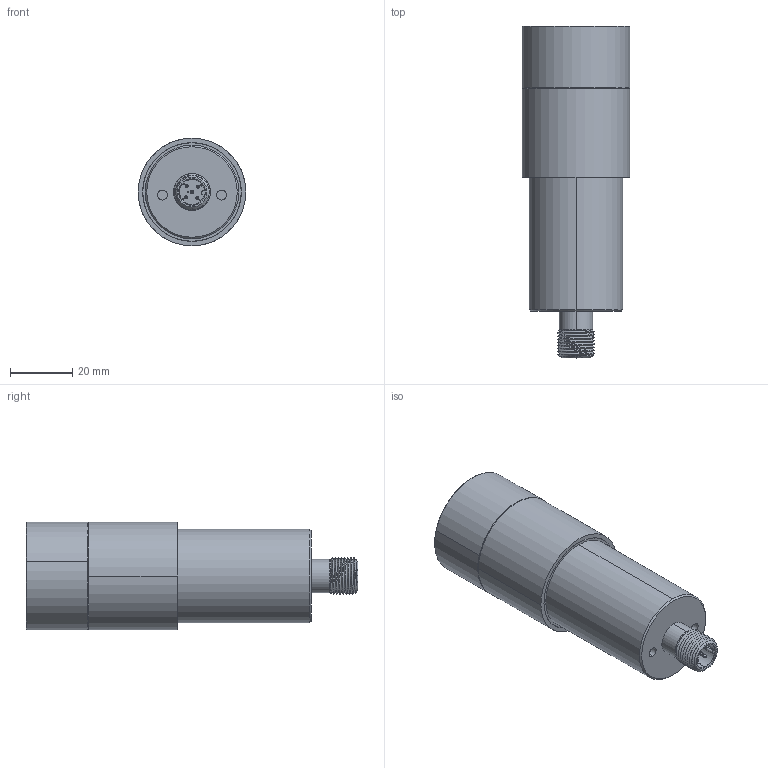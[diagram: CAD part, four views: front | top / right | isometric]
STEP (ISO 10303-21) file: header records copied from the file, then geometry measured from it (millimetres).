
FILE_DESCRIPTION (( 'STEP AP214' ), '1' );
FILE_NAME ('SXW30.STEP', '2015-10-16T16:51:54', ( '' ), ( '' ), 'SwSTEP 2.0', 'SolidWorks 2015', '' );
FILE_SCHEMA (( 'AUTOMOTIVE_DESIGN' ));
Length unit declared in the file: inch
Products named in the file (6): ERNI - 225251; Standard Lens; ENC-00533-05-SS-R1; ENC-00533-02-SS-R1; ENC-00533-01-SS-R1; SXW30
Assembly tree (5 placements, depth 2):
  SXW30
    ENC-00533-01-SS-R1
    ENC-00533-02-SS-R1
    ENC-00533-05-SS-R1
    Standard Lens
    ERNI - 225251
Bounding box: 34.5 x 106.43 x 34.5 mm (x, y, z)
Volume: 34601 mm3; surface area: 33487.4 mm2
Topology: 5 solids, 5 shells, 987 faces, 2633 edges, 1738 vertices
Faces by surface type: plane 544, bspline 219, cylinder 181, cone 34, torus 9
Entity records: 67225 total; most frequent: CARTESIAN_POINT 33758, ORIENTED_EDGE 5266, DIRECTION 3712, EDGE_CURVE 2633, VERTEX_POINT 1738, VECTOR 1688, LINE 1688, EDGE_LOOP 1079
